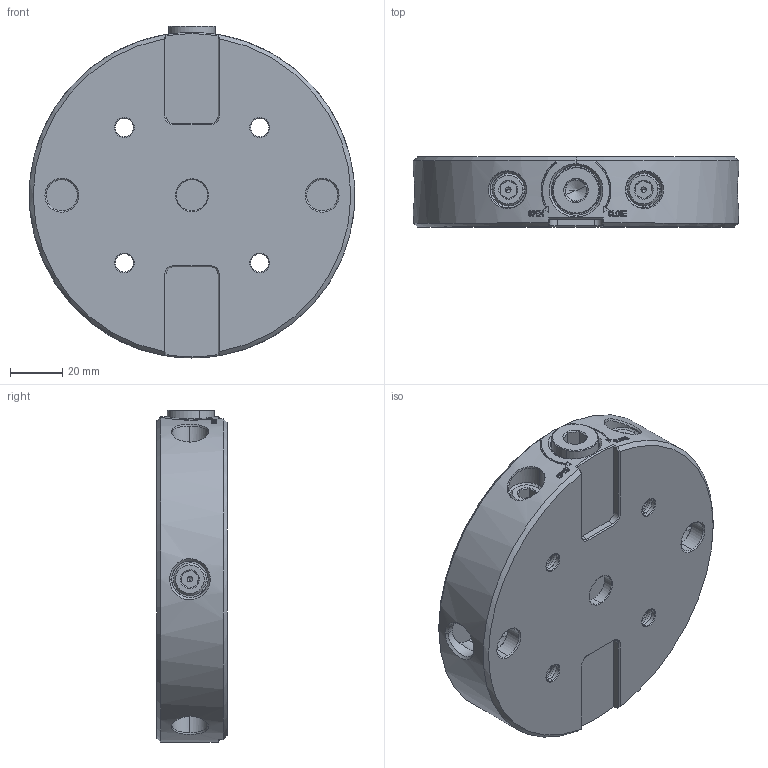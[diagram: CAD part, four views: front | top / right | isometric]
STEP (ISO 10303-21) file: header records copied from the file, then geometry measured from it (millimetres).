
FILE_DESCRIPTION((''),'2;1');
FILE_NAME('TI_WH_52ZPS_RD125NP001_ASM','2026-06-07T16:35:27',('Admin'),(''),'CREO PARAMETRIC BY PTC INC, 2025010','CREO PARAMETRIC BY PTC INC, 2025010','');
FILE_SCHEMA(('CONFIG_CONTROL_DESIGN'));
Length unit declared in the file: millimetre
Products named in the file (16): B40101-00003_-9770001; B40101-00003_-50670001; B40101-00003_-74820001; F009-0035176A_-1-S0001; B40101-00003_-14920001; B11500-00184_O--150001; B11500-00184_O--250001; B40101-00003_-30580001; _20001; B11500-00184_O--340001; B11500-00184_O--440001; F009-0010923B_-1-S0001; B40101-00003_-52110001; NT-S52P125V2_ASM; CAP_1; TI_WH_52ZPS_RD125NP001_ASM
Assembly tree (16 placements, depth 3):
  TI_WH_52ZPS_RD125NP001_ASM
    NT-S52P125V2_ASM
      B40101-00003_-9770001
      B40101-00003_-50670001
      B40101-00003_-74820001
      F009-0035176A_-1-S0001
      B40101-00003_-14920001
      B11500-00184_O--150001
      B11500-00184_O--250001
      B40101-00003_-30580001
      _20001
      B11500-00184_O--340001
      B11500-00184_O--440001
      F009-0010923B_-1-S0001
      B40101-00003_-52110001
    CAP_1  x2
Bounding box: 125 x 27 x 127.5 mm (x, y, z)
Volume: 288370.2 mm3; surface area: 56981.1 mm2
Topology: 15 solids, 15 shells, 727 faces, 1712 edges, 1040 vertices
Faces by surface type: plane 209, cone 196, cylinder 176, bspline 122, torus 24
Entity records: 42654 total; most frequent: CARTESIAN_POINT 26758, ORIENTED_EDGE 3300, DIRECTION 3093, EDGE_CURVE 1650, AXIS2_PLACEMENT_3D 1194, VERTEX_POINT 1016, EDGE_LOOP 788, FACE_OUTER_BOUND 708
